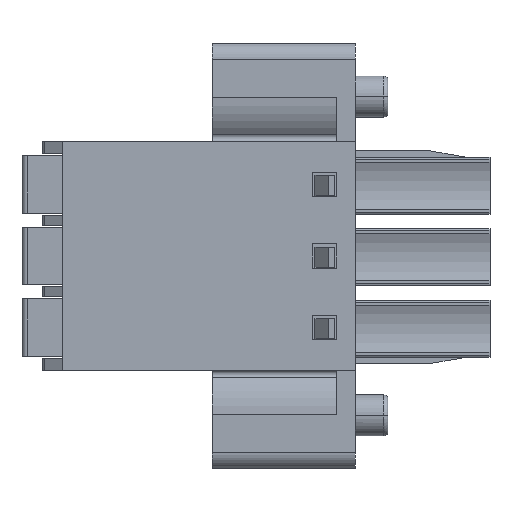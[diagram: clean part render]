
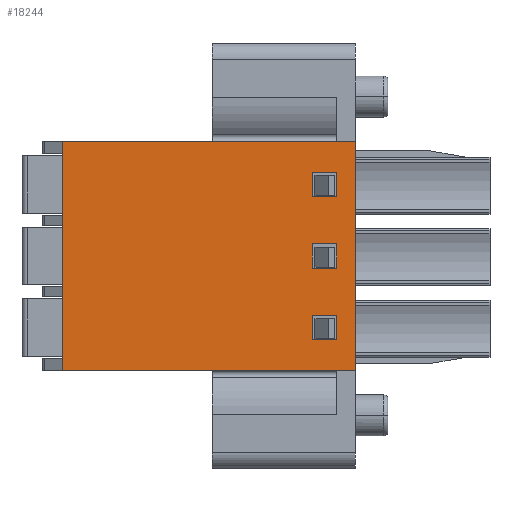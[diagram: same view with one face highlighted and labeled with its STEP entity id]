
A CAD part, left-side view. The second image highlights one B-rep face of the part: STEP entity #18244.
In plain terms, the highlighted planar face has unit normal (-1, 0, 0).
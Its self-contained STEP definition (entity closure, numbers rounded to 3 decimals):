
#796=DIRECTION('',(0.,0.,-1.));
#797=VECTOR('',#796,11.2);
#798=CARTESIAN_POINT('',(-8.35,14.3,31.85));
#799=LINE('',#798,#797);
#912=DIRECTION('',(0.,1.,0.));
#913=VECTOR('',#912,14.3);
#914=CARTESIAN_POINT('',(-8.35,0.,20.65));
#915=LINE('',#914,#913);
#916=DIRECTION('',(0.,-1.,0.));
#917=VECTOR('',#916,14.3);
#918=CARTESIAN_POINT('',(-8.35,14.3,31.85));
#919=LINE('',#918,#917);
#920=DIRECTION('',(0.,0.,1.));
#921=VECTOR('',#920,1.2);
#922=CARTESIAN_POINT('',(-8.35,0.9,22.15));
#923=LINE('',#922,#921);
#924=DIRECTION('',(0.,1.,0.));
#925=VECTOR('',#924,1.2);
#926=CARTESIAN_POINT('',(-8.35,0.9,23.35));
#927=LINE('',#926,#925);
#928=DIRECTION('',(0.,0.,-1.));
#929=VECTOR('',#928,1.2);
#930=CARTESIAN_POINT('',(-8.35,2.1,23.35));
#931=LINE('',#930,#929);
#932=DIRECTION('',(0.,-1.,0.));
#933=VECTOR('',#932,1.2);
#934=CARTESIAN_POINT('',(-8.35,2.1,22.15));
#935=LINE('',#934,#933);
#936=DIRECTION('',(0.,0.,1.));
#937=VECTOR('',#936,1.2);
#938=CARTESIAN_POINT('',(-8.35,0.9,25.65));
#939=LINE('',#938,#937);
#940=DIRECTION('',(0.,1.,0.));
#941=VECTOR('',#940,1.2);
#942=CARTESIAN_POINT('',(-8.35,0.9,26.85));
#943=LINE('',#942,#941);
#944=DIRECTION('',(0.,0.,-1.));
#945=VECTOR('',#944,1.2);
#946=CARTESIAN_POINT('',(-8.35,2.1,26.85));
#947=LINE('',#946,#945);
#948=DIRECTION('',(0.,-1.,0.));
#949=VECTOR('',#948,1.2);
#950=CARTESIAN_POINT('',(-8.35,2.1,25.65));
#951=LINE('',#950,#949);
#952=DIRECTION('',(0.,0.,1.));
#953=VECTOR('',#952,1.2);
#954=CARTESIAN_POINT('',(-8.35,0.9,29.15));
#955=LINE('',#954,#953);
#956=DIRECTION('',(0.,1.,0.));
#957=VECTOR('',#956,1.2);
#958=CARTESIAN_POINT('',(-8.35,0.9,30.35));
#959=LINE('',#958,#957);
#960=DIRECTION('',(0.,0.,-1.));
#961=VECTOR('',#960,1.2);
#962=CARTESIAN_POINT('',(-8.35,2.1,30.35));
#963=LINE('',#962,#961);
#964=DIRECTION('',(0.,-1.,0.));
#965=VECTOR('',#964,1.2);
#966=CARTESIAN_POINT('',(-8.35,2.1,29.15));
#967=LINE('',#966,#965);
#998=DIRECTION('',(0.,0.,1.));
#999=VECTOR('',#998,11.2);
#1000=CARTESIAN_POINT('',(-8.35,0.,20.65));
#1001=LINE('',#1000,#999);
#13918=CARTESIAN_POINT('',(-8.35,0.,20.65));
#13919=VERTEX_POINT('',#13918);
#13920=CARTESIAN_POINT('',(-8.35,0.,31.85));
#13921=VERTEX_POINT('',#13920);
#14329=CARTESIAN_POINT('',(-8.35,14.3,20.65));
#14330=VERTEX_POINT('',#14329);
#14569=CARTESIAN_POINT('',(-8.35,14.3,31.85));
#14570=VERTEX_POINT('',#14569);
#14617=CARTESIAN_POINT('',(-8.35,0.9,22.15));
#14618=CARTESIAN_POINT('',(-8.35,0.9,23.35));
#14619=VERTEX_POINT('',#14617);
#14620=VERTEX_POINT('',#14618);
#14621=CARTESIAN_POINT('',(-8.35,2.1,23.35));
#14622=VERTEX_POINT('',#14621);
#14623=CARTESIAN_POINT('',(-8.35,2.1,22.15));
#14624=VERTEX_POINT('',#14623);
#14625=CARTESIAN_POINT('',(-8.35,0.9,25.65));
#14626=CARTESIAN_POINT('',(-8.35,0.9,26.85));
#14627=VERTEX_POINT('',#14625);
#14628=VERTEX_POINT('',#14626);
#14629=CARTESIAN_POINT('',(-8.35,2.1,26.85));
#14630=VERTEX_POINT('',#14629);
#14631=CARTESIAN_POINT('',(-8.35,2.1,25.65));
#14632=VERTEX_POINT('',#14631);
#14633=CARTESIAN_POINT('',(-8.35,0.9,29.15));
#14634=CARTESIAN_POINT('',(-8.35,0.9,30.35));
#14635=VERTEX_POINT('',#14633);
#14636=VERTEX_POINT('',#14634);
#14637=CARTESIAN_POINT('',(-8.35,2.1,30.35));
#14638=VERTEX_POINT('',#14637);
#14639=CARTESIAN_POINT('',(-8.35,2.1,29.15));
#14640=VERTEX_POINT('',#14639);
#18201=CARTESIAN_POINT('',(-8.35,14.3,-3.5));
#18202=DIRECTION('',(-1.,0.,0.));
#18203=DIRECTION('',(0.,-1.,0.));
#18204=AXIS2_PLACEMENT_3D('',#18201,#18202,#18203);
#18205=PLANE('',#18204);
#18207=ORIENTED_EDGE('',*,*,#18206,.F.);
#18209=ORIENTED_EDGE('',*,*,#18208,.T.);
#18210=ORIENTED_EDGE('',*,*,#18138,.F.);
#18211=ORIENTED_EDGE('',*,*,#17735,.T.);
#18212=EDGE_LOOP('',(#18207,#18209,#18210,#18211));
#18213=FACE_OUTER_BOUND('',#18212,.F.);
#18215=ORIENTED_EDGE('',*,*,#18214,.T.);
#18217=ORIENTED_EDGE('',*,*,#18216,.T.);
#18219=ORIENTED_EDGE('',*,*,#18218,.T.);
#18221=ORIENTED_EDGE('',*,*,#18220,.T.);
#18222=EDGE_LOOP('',(#18215,#18217,#18219,#18221));
#18223=FACE_BOUND('',#18222,.F.);
#18225=ORIENTED_EDGE('',*,*,#18224,.T.);
#18227=ORIENTED_EDGE('',*,*,#18226,.T.);
#18229=ORIENTED_EDGE('',*,*,#18228,.T.);
#18231=ORIENTED_EDGE('',*,*,#18230,.T.);
#18232=EDGE_LOOP('',(#18225,#18227,#18229,#18231));
#18233=FACE_BOUND('',#18232,.F.);
#18235=ORIENTED_EDGE('',*,*,#18234,.T.);
#18237=ORIENTED_EDGE('',*,*,#18236,.T.);
#18239=ORIENTED_EDGE('',*,*,#18238,.T.);
#18241=ORIENTED_EDGE('',*,*,#18240,.T.);
#18242=EDGE_LOOP('',(#18235,#18237,#18239,#18241));
#18243=FACE_BOUND('',#18242,.F.);
#18244=ADVANCED_FACE('',(#18213,#18223,#18233,#18243),#18205,.T.);
#17735=EDGE_CURVE('',#14570,#13921,#919,.T.);
#18138=EDGE_CURVE('',#14570,#14330,#799,.T.);
#18206=EDGE_CURVE('',#13919,#13921,#1001,.T.);
#18208=EDGE_CURVE('',#13919,#14330,#915,.T.);
#18214=EDGE_CURVE('',#14619,#14620,#923,.T.);
#18216=EDGE_CURVE('',#14620,#14622,#927,.T.);
#18218=EDGE_CURVE('',#14622,#14624,#931,.T.);
#18220=EDGE_CURVE('',#14624,#14619,#935,.T.);
#18224=EDGE_CURVE('',#14627,#14628,#939,.T.);
#18226=EDGE_CURVE('',#14628,#14630,#943,.T.);
#18228=EDGE_CURVE('',#14630,#14632,#947,.T.);
#18230=EDGE_CURVE('',#14632,#14627,#951,.T.);
#18234=EDGE_CURVE('',#14635,#14636,#955,.T.);
#18236=EDGE_CURVE('',#14636,#14638,#959,.T.);
#18238=EDGE_CURVE('',#14638,#14640,#963,.T.);
#18240=EDGE_CURVE('',#14640,#14635,#967,.T.);
